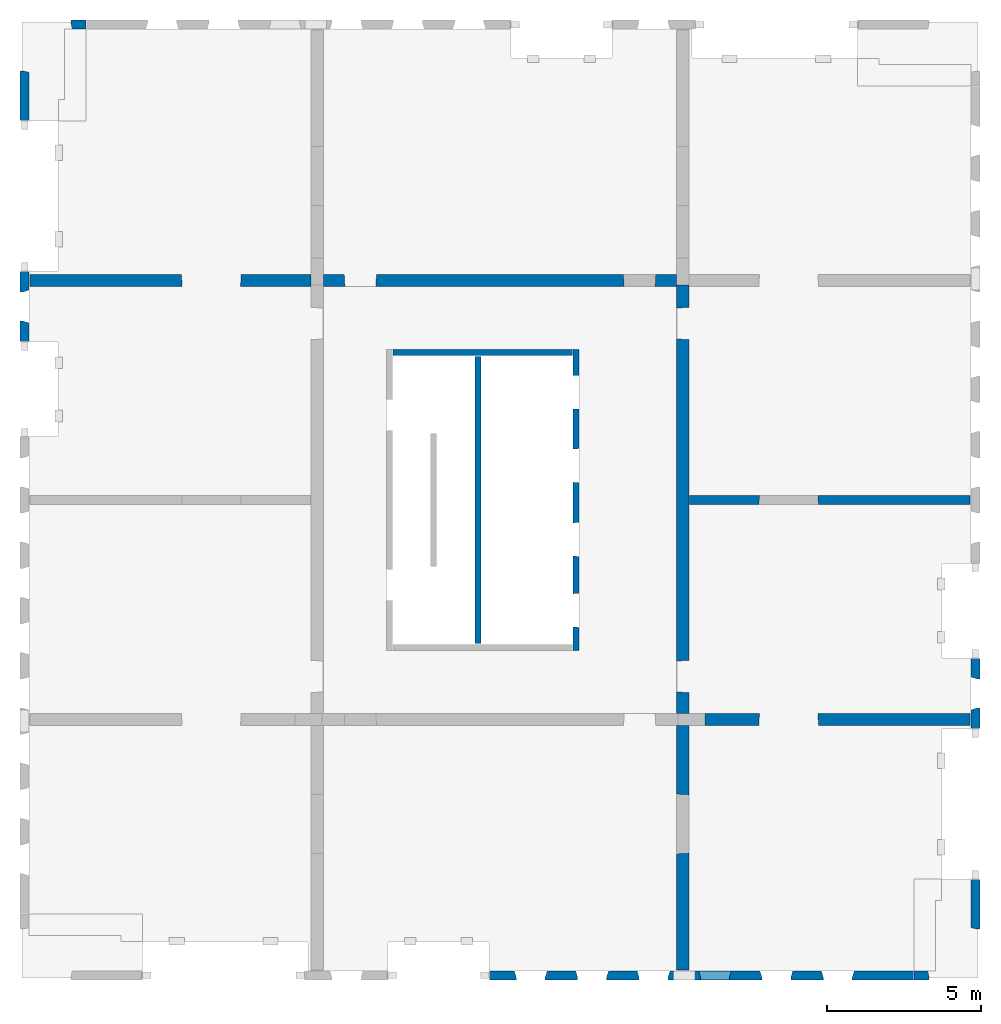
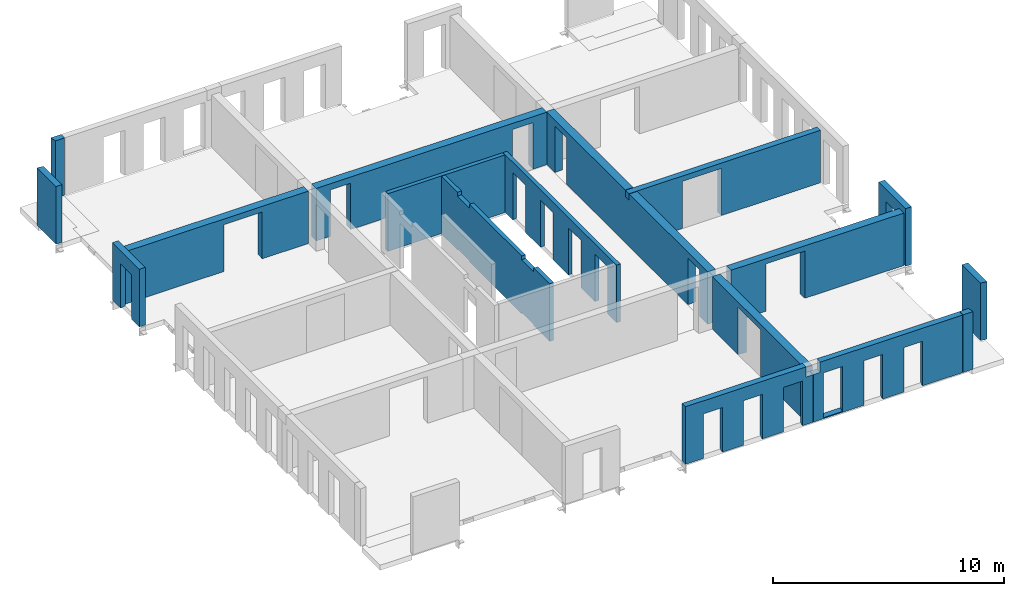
# One storey, part 3 of 4: 17 walls, 36 openings.
"""IFC2X3 building model written with IfcOpenShell, lengths in millimetres."""

from ifc_helpers import new_model, entity, si_unit, converted_unit, derived_unit, direction, frame, frame_2d, origin, origin_2d_with_axis, place, context, subcontext, project, spatial, rectangle, extrude, faceted_brep, material, layer, layer_set, layer_usage, type_object, element, save


model = new_model("IFC2X3")

# Units and contexts
model_context = context("Model", 3, precision=0.01, world=origin(), true_north=direction((6.12303176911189e-17, 1.0)))
body_context = subcontext(model_context, "Body", "Model", "MODEL_VIEW")
ifc_project = project(units=[si_unit("LENGTHUNIT", "METRE", prefix="MILLI"), si_unit("AREAUNIT", "SQUARE_METRE"), si_unit("VOLUMEUNIT", "CUBIC_METRE"), converted_unit("PLANEANGLEUNIT", "DEGREE", entity("IfcRatioMeasure", 0.0174532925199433), si_unit("PLANEANGLEUNIT", "RADIAN"), dimensions=[0, 0, 0, 0, 0, 0, 0]), si_unit("MASSUNIT", "GRAM", prefix="KILO"), derived_unit("MASSDENSITYUNIT", [(si_unit("MASSUNIT", "GRAM", prefix="KILO"), 1), (si_unit("LENGTHUNIT", "METRE"), -3)]), si_unit("TIMEUNIT", "SECOND"), si_unit("FREQUENCYUNIT", "HERTZ"), si_unit("THERMODYNAMICTEMPERATUREUNIT", "DEGREE_CELSIUS"), derived_unit("THERMALTRANSMITTANCEUNIT", [(si_unit("MASSUNIT", "GRAM", prefix="KILO"), 1), (si_unit("THERMODYNAMICTEMPERATUREUNIT", "KELVIN"), -1), (si_unit("TIMEUNIT", "SECOND"), -3)]), derived_unit("VOLUMETRICFLOWRATEUNIT", [(si_unit("LENGTHUNIT", "METRE"), 3), (si_unit("TIMEUNIT", "SECOND"), -1)]), si_unit("ELECTRICCURRENTUNIT", "AMPERE"), si_unit("ELECTRICVOLTAGEUNIT", "VOLT"), si_unit("POWERUNIT", "WATT"), si_unit("FORCEUNIT", "NEWTON", prefix="KILO"), si_unit("ILLUMINANCEUNIT", "LUX"), si_unit("LUMINOUSFLUXUNIT", "LUMEN"), si_unit("LUMINOUSINTENSITYUNIT", "CANDELA"), derived_unit("USERDEFINED", [(si_unit("MASSUNIT", "GRAM", prefix="KILO"), -1), (si_unit("LENGTHUNIT", "METRE"), -2), (si_unit("TIMEUNIT", "SECOND"), 3), (si_unit("LUMINOUSFLUXUNIT", "LUMEN"), 1)]), derived_unit("LINEARVELOCITYUNIT", [(si_unit("LENGTHUNIT", "METRE"), 1), (si_unit("TIMEUNIT", "SECOND"), -1)]), si_unit("PRESSUREUNIT", "PASCAL"), derived_unit("USERDEFINED", [(si_unit("LENGTHUNIT", "METRE"), -2), (si_unit("MASSUNIT", "GRAM", prefix="KILO"), 1), (si_unit("TIMEUNIT", "SECOND"), -2)])], contexts=[model_context])

# Site, building, storey
site_placement = place(None, origin())
site = spatial("IfcSite", under=ifc_project, at=site_placement, Name="Default", CompositionType="ELEMENT")
building_placement = place(site_placement, origin())
building = spatial("IfcBuilding", under=site, at=building_placement, Name="niet gebruiken", CompositionType="ELEMENT")
storey_placement = place(building_placement, frame((0.0, 0.0, 66960.0)))
storey = spatial("IfcBuildingStorey", under=building, at=storey_placement, Name="21 eenentwintigste verdieping", CompositionType="ELEMENT", Elevation=66960.0000000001)

# Wall, openings
ifc_material = material(Name="NLRS_f2_beton prefab")
ifc_layer_1 = layer(ifc_material, 200.0)
ifc_layer_set_1 = layer_set([ifc_layer_1], Name="Basic Wall:NLRS_22.21_WA_beton prefab d=200_gen")
ifc_layer_usage_1 = layer_usage(ifc_layer_set_1, "AXIS2", "NEGATIVE", 100.0)
wall_type_1 = type_object("IfcWallType", Name="Basic Wall:NLRS_22.21_WA_beton prefab d=200_gen", PredefinedType="STANDARD", material=ifc_layer_set_1)
wall_1_placement = place(storey_placement, frame((144230.0, 22400.0, -50.0), z_axis=(0.0, 0.0, 1.0), x_axis=(0.0, -1.0, 0.0)))
wall_1 = element("IfcWallStandardCase", 1, at=wall_1_placement, inside=storey, type_object=wall_type_1, material=ifc_layer_usage_1, Name="Basic Wall:NLRS_22.21_WA_beton prefab d=200_gen", ObjectType="Basic Wall:NLRS_22.21_WA_beton prefab d=200_gen", context=body_context, shape_type="SweptSolid", body=[
    extrude(rectangle(XDim=9800.0, YDim=199.999999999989, at=frame_2d((4900.0, -3.69482222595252e-13), x_axis=(-1.0, 0.0))), origin(), (0.0, 0.0, 1.0), 3040.0),
])
opening_1_placement = place(wall_1_placement, frame((9047.0, -100.0, 0.0)))
element("IfcOpeningElement", 2, at=opening_1_placement, cuts=wall_1, Name="Basic Wall:NLRS_22.21_WA_beton prefab d=200_gen", ObjectType="Opening", context=body_context, shape_type="Brep", body=[
    faceted_brep([(-1104.0, 200.0, 2502.0), (-1104.0, 200.0, 0.0), (-1092.0, 0.0, 0.0), (-1092.0, 0.0, 2490.0), (0.0, 200.0, 0.0), (-12.0, 0.0, 0.0), (-12.0, 0.0, 2490.0), (0.0, 200.0, 2502.0)], [[[0, 1, 2, 3]], [[1, 4, 5, 2]], [[6, 3, 2, 5]], [[7, 4, 1, 0]], [[7, 0, 3, 6]], [[4, 7, 6, 5]]]),
])
opening_2_placement = place(wall_1_placement, frame((6737.0, -100.0, 0.0)))
element("IfcOpeningElement", 3, at=opening_2_placement, cuts=wall_1, Name="Basic Wall:NLRS_22.21_WA_beton prefab d=200_gen", ObjectType="Opening", context=body_context, shape_type="Brep", body=[
    faceted_brep([(-1104.0, 200.0, 2502.0), (-1104.0, 200.0, 0.0), (-1092.0, 0.0, 0.0), (-1092.0, 0.0, 2490.0), (0.0, 200.0, 0.0), (-12.0, 0.0, 0.0), (-12.0, 0.0, 2490.0), (0.0, 200.0, 2502.0)], [[[0, 1, 2, 3]], [[1, 4, 5, 2]], [[6, 3, 2, 5]], [[7, 4, 1, 0]], [[7, 0, 3, 6]], [[4, 7, 6, 5]]]),
])
opening_3_placement = place(wall_1_placement, frame((4332.0, -100.0, 0.0)))
element("IfcOpeningElement", 4, at=opening_3_placement, cuts=wall_1, Name="Basic Wall:NLRS_22.21_WA_beton prefab d=200_gen", ObjectType="Opening", context=body_context, shape_type="Brep", body=[
    faceted_brep([(-1104.0, 200.0, 2502.0), (-1104.0, 200.0, 0.0), (-1092.0, 0.0, 0.0), (-1092.0, 0.0, 2490.0), (0.0, 200.0, 0.0), (-12.0, 0.0, 0.0), (-12.0, 0.0, 2490.0), (0.0, 200.0, 2502.0)], [[[0, 1, 2, 3]], [[1, 4, 5, 2]], [[6, 3, 2, 5]], [[7, 4, 1, 0]], [[7, 0, 3, 6]], [[4, 7, 6, 5]]]),
])
opening_4_placement = place(wall_1_placement, frame((1942.0, -100.0, 0.0)))
element("IfcOpeningElement", 5, at=opening_4_placement, cuts=wall_1, Name="Basic Wall:NLRS_22.21_WA_beton prefab d=200_gen", ObjectType="Opening", context=body_context, shape_type="Brep", body=[
    faceted_brep([(-1104.0, 200.0, 2502.0), (-1104.0, 200.0, 0.0), (-1092.0, 0.0, 0.0), (-1092.0, 0.0, 2490.0), (0.0, 200.0, 0.0), (-12.0, 0.0, 0.0), (-12.0, 0.0, 2490.0), (0.0, 200.0, 2502.0)], [[[0, 1, 2, 3]], [[1, 4, 5, 2]], [[6, 3, 2, 5]], [[7, 4, 1, 0]], [[7, 0, 3, 6]], [[4, 7, 6, 5]]]),
])

ifc_layer_usage_2 = layer_usage(ifc_layer_set_1, "AXIS2", "NEGATIVE", 100.0)
wall_2_placement = place(storey_placement, frame((141030.0, 22180.0, -50.0), z_axis=(0.0, 0.0, 1.0), x_axis=(0.0, -1.0, 0.0)))
wall_2 = element("IfcWallStandardCase", 6, at=wall_2_placement, inside=storey, type_object=wall_type_1, material=ifc_layer_usage_2, Name="Basic Wall:NLRS_22.21_WA_beton prefab d=200_gen", ObjectType="Basic Wall:NLRS_22.21_WA_beton prefab d=200_gen", context=body_context, shape_type="SweptSolid", body=[
    extrude(rectangle(XDim=9360.0, YDim=199.999999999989, at=frame_2d((4680.0, -2.8421709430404e-14), x_axis=(-1.0, 0.0))), origin(), (0.0, 0.0, 1.0), 3040.0),
])
opening_5_placement = place(wall_2_placement, origin())
element("IfcOpeningElement", 7, at=opening_5_placement, cuts=wall_2, Name="Basic Wall:NLRS_22.21_WA_beton prefab d=200_gen", ObjectType="Opening", context=body_context, shape_type="SweptSolid", body=[
    extrude(rectangle(XDim=70.0000000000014, YDim=1044.00000000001, at=origin_2d_with_axis()), frame((7452.0, -100.0, 35.0), z_axis=(0.0, 1.0, 0.0), x_axis=(0.0, 0.0, -1.0)), (0.0, 0.0, 1.0), 199.999999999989),
])
opening_6_placement = place(wall_2_placement, origin())
element("IfcOpeningElement", 8, at=opening_6_placement, cuts=wall_2, Name="Basic Wall:NLRS_22.21_WA_beton prefab d=200_gen", ObjectType="Opening", context=body_context, shape_type="SweptSolid", body=[
    extrude(rectangle(XDim=70.0000000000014, YDim=1044.00000000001, at=origin_2d_with_axis()), frame((1908.0, -100.0, 35.0), z_axis=(0.0, 1.0, 0.0), x_axis=(0.0, 0.0, -1.0)), (0.0, 0.0, 1.0), 199.999999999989),
])
opening_7_placement = place(wall_2_placement, origin())
element("IfcOpeningElement", 9, at=opening_7_placement, cuts=wall_2, Name="Basic Wall:NLRS_22.21_WA_beton prefab d=200_gen", ObjectType="Opening", context=body_context, shape_type="SweptSolid", body=[
    extrude(rectangle(XDim=199.999999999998, YDim=1044.00000000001, at=frame_2d((-4.33431068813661e-12, 0.0), x_axis=(1.0, 0.0))), frame((1908.0, -100.0, 2940.0), z_axis=(0.0, 1.0, 0.0), x_axis=(0.0, 0.0, -1.0)), (0.0, 0.0, 1.0), 199.999999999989),
])
opening_8_placement = place(wall_2_placement, origin())
element("IfcOpeningElement", 10, at=opening_8_placement, cuts=wall_2, Name="Basic Wall:NLRS_22.21_WA_beton prefab d=200_gen", ObjectType="Opening", context=body_context, shape_type="SweptSolid", body=[
    extrude(rectangle(XDim=199.999999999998, YDim=1044.00000000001, at=frame_2d((-4.33431068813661e-12, 0.0), x_axis=(1.0, 0.0))), frame((7452.0, -100.0, 2940.0), z_axis=(0.0, 1.0, 0.0), x_axis=(0.0, 0.0, -1.0)), (0.0, 0.0, 1.0), 199.999999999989),
])
opening_9_placement = place(wall_2_placement, origin())
element("IfcOpeningElement", 11, at=opening_9_placement, cuts=wall_2, Name="Basic Wall:NLRS_22.21_WA_beton prefab d=200_gen", ObjectType="Recess", context=body_context, shape_type="SweptSolid", body=[
    extrude(rectangle(XDim=399.999999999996, YDim=280.000000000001, at=frame_2d((-2.1600499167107e-12, 0.0), x_axis=(0.0, 1.0))), frame((770.0, -60.0, 438.0), z_axis=(0.0, 1.0, 0.0), x_axis=(1.0, 0.0, 0.0)), (0.0, 0.0, 1.0), 159.999999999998),
])
opening_10_placement = place(wall_2_placement, origin())
element("IfcOpeningElement", 12, at=opening_10_placement, cuts=wall_2, Name="Basic Wall:NLRS_22.21_WA_beton prefab d=200_gen", ObjectType="Recess", context=body_context, shape_type="SweptSolid", body=[
    extrude(rectangle(XDim=399.999999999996, YDim=280.000000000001, at=frame_2d((-2.1600499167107e-12, 0.0), x_axis=(0.0, 1.0))), frame((1570.0, -60.0, 438.0), z_axis=(0.0, 1.0, 0.0), x_axis=(1.0, 0.0, 0.0)), (0.0, 0.0, 1.0), 159.999999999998),
])
opening_11_placement = place(wall_2_placement, origin())
element("IfcOpeningElement", 13, at=opening_11_placement, cuts=wall_2, Name="Basic Wall:NLRS_22.21_WA_beton prefab d=200_gen", ObjectType="Recess", context=body_context, shape_type="SweptSolid", body=[
    extrude(rectangle(XDim=399.999999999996, YDim=279.999999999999, at=frame_2d((-1.08002495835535e-12, 0.0), x_axis=(0.0, 1.0))), frame((3160.0, -60.0, 438.0), z_axis=(0.0, 1.0, 0.0), x_axis=(1.0, 0.0, 0.0)), (0.0, 0.0, 1.0), 159.999999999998),
])
opening_12_placement = place(wall_2_placement, origin())
element("IfcOpeningElement", 14, at=opening_12_placement, cuts=wall_2, Name="Basic Wall:NLRS_22.21_WA_beton prefab d=200_gen", ObjectType="Recess", context=body_context, shape_type="SweptSolid", body=[
    extrude(rectangle(XDim=399.999999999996, YDim=279.999999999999, at=frame_2d((1.08002495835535e-12, 0.0), x_axis=(0.0, 1.0))), frame((3960.0, -60.0, 438.0), z_axis=(0.0, 1.0, 0.0), x_axis=(1.0, 0.0, 0.0)), (0.0, 0.0, 1.0), 159.999999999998),
])

# Wall
ifc_layer_usage_3 = layer_usage(ifc_layer_set_1, "AXIS2", "NEGATIVE", 100.0)
wall_3_placement = place(storey_placement, frame((138270.0, 22300.0, -50.0)))
element("IfcWallStandardCase", 15, at=wall_3_placement, inside=storey, type_object=wall_type_1, material=ifc_layer_usage_3, Name="Basic Wall:NLRS_22.21_WA_beton prefab d=200_gen", ObjectType="Basic Wall:NLRS_22.21_WA_beton prefab d=200_gen", context=body_context, shape_type="SweptSolid", body=[
    extrude(rectangle(XDim=5839.99999999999, YDim=199.999999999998, at=frame_2d((2919.99999999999, -7.60280727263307e-13), x_axis=(-1.0, 0.0))), origin(), (0.0, 0.0, 1.0), 3040.0),
])

# Wall, openings
ifc_layer_2 = layer(ifc_material, 300.0)
ifc_layer_set_2 = layer_set([ifc_layer_2], Name="Basic Wall:NLRS_22.21_WA_beton prefab d=300_gen")
ifc_layer_usage_4 = layer_usage(ifc_layer_set_2, "AXIS2", "NEGATIVE", 150.0)
wall_type_2 = type_object("IfcWallType", Name="Basic Wall:NLRS_22.21_WA_beton prefab d=300_gen", PredefinedType="STANDARD", material=ifc_layer_set_2)
wall_4_placement = place(storey_placement, frame((157060.0, 17500.0, -70.0), z_axis=(0.0, 0.0, 1.0), x_axis=(-1.0, 0.0, 0.0)))
wall_4 = element("IfcWallStandardCase", 16, at=wall_4_placement, inside=storey, type_object=wall_type_2, material=ifc_layer_usage_4, Name="Basic Wall:NLRS_22.21_WA_beton prefab d=300_gen", ObjectType="Basic Wall:NLRS_22.21_WA_beton prefab d=300_gen", context=body_context, shape_type="SweptSolid", body=[
    extrude(rectangle(XDim=9559.9999999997, YDim=300.000000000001, at=frame_2d((4779.99999999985, -1.84741111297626e-13), x_axis=(-1.0, 0.0))), origin(), (0.0, 0.0, 1.0), 2769.99999999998),
])
opening_13_placement = place(wall_4_placement, frame((6878.0, 150.0, 0.0)))
element("IfcOpeningElement", 17, at=opening_13_placement, cuts=wall_4, Name="Basic Wall:NLRS_22.21_WA_beton prefab d=300_gen", ObjectType="Opening", context=body_context, shape_type="Brep", body=[
    faceted_brep([(-18.0, -300.0, 2470.0), (-1918.0, -300.0, 2470.0), (-1918.0, -300.0, 0.0), (-18.0, -300.0, 0.0), (0.0, 0.0, 2488.0), (0.0, 0.0, 0.0), (-1936.0, 0.0, 0.0), (-1936.0, 0.0, 2488.0)], [[[0, 1, 2, 3]], [[4, 5, 6, 7]], [[4, 7, 1, 0]], [[7, 6, 2, 1]], [[6, 5, 3, 2]], [[5, 4, 0, 3]]]),
])
opening_14_placement = place(wall_4_placement, origin())
element("IfcOpeningElement", 18, at=opening_14_placement, cuts=wall_4, Name="Basic Wall:NLRS_22.21_WA_beton prefab d=300_gen", ObjectType="Opening", context=body_context, shape_type="SweptSolid", body=[
    extrude(rectangle(XDim=2439.99999999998, YDim=420.000000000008, at=frame_2d((0.0, 0.0), x_axis=(0.0, 1.0))), frame((9350.0, 150.0, 1220.0), z_axis=(0.0, -1.0, 0.0), x_axis=(1.0, 0.0, 0.0)), (0.0, 0.0, 1.0), 300.0),
])

# Wall, opening
ifc_layer_3 = layer(ifc_material, 400.0)
ifc_layer_set_3 = layer_set([ifc_layer_3], Name="Basic Wall:NLRS_22.21_WA_beton prefab d=400_gen")
ifc_layer_usage_5 = layer_usage(ifc_layer_set_3, "AXIS2", "NEGATIVE", 200.0)
wall_type_3 = type_object("IfcWallType", Name="Basic Wall:NLRS_22.21_WA_beton prefab d=400_gen", PredefinedType="STANDARD", material=ifc_layer_set_3)
wall_5_placement = place(storey_placement, frame((147700.0, 10150.0, -70.0), z_axis=(0.0, 0.0, 1.0), x_axis=(0.0, -1.0, 0.0)))
wall_5 = element("IfcWallStandardCase", 19, at=wall_5_placement, inside=storey, type_object=wall_type_3, material=ifc_layer_usage_5, Name="Basic Wall:NLRS_22.21_WA_beton prefab d=400_gen", ObjectType="Basic Wall:NLRS_22.21_WA_beton prefab d=400_gen", context=body_context, shape_type="SweptSolid", body=[
    extrude(rectangle(XDim=7960.00000000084, YDim=400.000000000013, at=frame_2d((3980.00000000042, -7.105427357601e-14), x_axis=(-1.0, 0.0))), origin(), (0.0, 0.0, 1.0), 2770.00000000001),
])
opening_15_placement = place(wall_5_placement, frame((4174.0, -200.0, 0.0)))
element("IfcOpeningElement", 20, at=opening_15_placement, cuts=wall_5, Name="Basic Wall:NLRS_22.21_WA_beton prefab d=400_gen", ObjectType="Opening", context=body_context, shape_type="Brep", body=[
    faceted_brep([(-24.0, 400.0, 2470.0), (-24.0, 400.0, 0.0), (-1924.0, 400.0, 0.0), (-1924.0, 400.0, 2470.0), (0.0, 0.0, 2494.0), (-1948.0, 0.0, 2494.0), (-1948.0, 0.0, 0.0), (0.0, 0.0, 0.0)], [[[0, 1, 2, 3]], [[4, 5, 6, 7]], [[4, 0, 3, 5]], [[5, 3, 2, 6]], [[6, 2, 1, 7]], [[7, 1, 0, 4]]]),
])

ifc_layer_usage_6 = layer_usage(ifc_layer_set_3, "AXIS2", "NEGATIVE", 200.0)
wall_6_placement = place(storey_placement, frame((135600.0, 24650.0, -70.0), z_axis=(0.0, 0.0, 1.0), x_axis=(-1.0, 0.0, 0.0)))
wall_6 = element("IfcWallStandardCase", 21, at=wall_6_placement, inside=storey, type_object=wall_type_3, material=ifc_layer_usage_6, Name="Basic Wall:NLRS_22.21_WA_beton prefab d=400_gen", ObjectType="Basic Wall:NLRS_22.21_WA_beton prefab d=400_gen", context=body_context, shape_type="SweptSolid", body=[
    extrude(rectangle(XDim=9159.99999999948, YDim=399.999999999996, at=frame_2d((4579.99999999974, -1.36424205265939e-12), x_axis=(-1.0, 0.0))), origin(), (0.0, 0.0, 1.0), 2770.00000000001),
])
opening_16_placement = place(wall_6_placement, frame((4224.0, 200.0, 0.0)))
element("IfcOpeningElement", 22, at=opening_16_placement, cuts=wall_6, Name="Basic Wall:NLRS_22.21_WA_beton prefab d=400_gen", ObjectType="Opening", context=body_context, shape_type="Brep", body=[
    faceted_brep([(-1924.0, 0.0, 2470.0), (-24.0, 0.0, 2470.0), (-24.0, 0.0, 0.0), (-1924.0, 0.0, 0.0), (-1948.0, -400.0, 2494.0), (-1948.0, -400.0, 0.0), (0.0, -400.0, 0.0), (0.0, -400.0, 2494.0)], [[[0, 1, 2, 3]], [[4, 5, 6, 7]], [[4, 7, 1, 0]], [[7, 6, 2, 1]], [[6, 5, 3, 2]], [[5, 4, 0, 3]]]),
])

ifc_layer_usage_7 = layer_usage(ifc_layer_set_3, "AXIS2", "NEGATIVE", 200.0)
wall_7_placement = place(storey_placement, frame((148430.0, 10350.0, -70.0)))
wall_7 = element("IfcWallStandardCase", 23, at=wall_7_placement, inside=storey, type_object=wall_type_3, material=ifc_layer_usage_7, Name="Basic Wall:NLRS_22.21_WA_beton prefab d=400_gen", ObjectType="Basic Wall:NLRS_22.21_WA_beton prefab d=400_gen", context=body_context, shape_type="SweptSolid", body=[
    extrude(rectangle(XDim=8630.00000000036, YDim=400.0, at=frame_2d((4315.00000000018, 0.0), x_axis=(-1.0, 0.0))), origin(), (0.0, 0.0, 1.0), 2770.00000000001),
])
opening_17_placement = place(wall_7_placement, frame((1746.0, -200.0, 0.0)))
element("IfcOpeningElement", 24, at=opening_17_placement, cuts=wall_7, Name="Basic Wall:NLRS_22.21_WA_beton prefab d=400_gen", ObjectType="Opening", context=body_context, shape_type="Brep", body=[
    faceted_brep([(24.0, 400.0, 2470.0), (1924.0, 400.0, 2470.0), (1924.0, 400.0, 0.0), (24.0, 400.0, 0.0), (0.0, 0.0, 2494.0), (0.0, 0.0, 0.0), (1948.0, 0.0, 0.0), (1948.0, 0.0, 2494.0)], [[[0, 1, 2, 3]], [[4, 5, 6, 7]], [[4, 7, 1, 0]], [[7, 6, 2, 1]], [[6, 5, 3, 2]], [[5, 4, 0, 3]]]),
])

# Wall, openings
ifc_layer_usage_8 = layer_usage(ifc_layer_set_3, "AXIS2", "NEGATIVE", 200.0)
wall_8_placement = place(storey_placement, frame((147700.0, 24500.0, -70.0), z_axis=(0.0, 0.0, 1.0), x_axis=(0.0, -1.0, 0.0)))
wall_8 = element("IfcWallStandardCase", 25, at=wall_8_placement, inside=storey, type_object=wall_type_3, material=ifc_layer_usage_8, Name="Basic Wall:NLRS_22.21_WA_beton prefab d=400_gen", ObjectType="Basic Wall:NLRS_22.21_WA_beton prefab d=400_gen", context=body_context, shape_type="SweptSolid", body=[
    extrude(rectangle(XDim=13949.9999999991, YDim=400.000000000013, at=frame_2d((6974.99999999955, 2.8421709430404e-14), x_axis=(-1.0, 0.0))), origin(), (0.0, 0.0, 1.0), 2770.00000000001),
])
opening_18_placement = place(wall_8_placement, frame((13274.0, -200.0, 0.0)))
element("IfcOpeningElement", 26, at=opening_18_placement, cuts=wall_8, Name="Basic Wall:NLRS_22.21_WA_beton prefab d=400_gen", ObjectType="Opening", context=body_context, shape_type="Brep", body=[
    faceted_brep([(-1054.0, 400.0, 2472.0), (-1054.0, 400.0, 0.0), (-1030.0, 0.0, 0.0), (-1030.0, 0.0, 2448.0), (0.0, 400.0, 0.0), (-24.0, 0.0, 0.0), (-24.0, 0.0, 2448.0), (0.0, 400.0, 2472.0)], [[[0, 1, 2, 3]], [[1, 4, 5, 2]], [[6, 3, 2, 5]], [[7, 4, 1, 0]], [[7, 0, 3, 6]], [[4, 7, 6, 5]]]),
])
opening_19_placement = place(wall_8_placement, frame((1780.0, -200.0, 0.0)))
element("IfcOpeningElement", 27, at=opening_19_placement, cuts=wall_8, Name="Basic Wall:NLRS_22.21_WA_beton prefab d=400_gen", ObjectType="Opening", context=body_context, shape_type="Brep", body=[
    faceted_brep([(-1054.0, 400.0, 2472.0), (-1054.0, 400.0, 0.0), (-1030.0, 0.0, 0.0), (-1030.0, 0.0, 2448.0), (0.0, 400.0, 0.0), (-24.0, 0.0, 0.0), (-24.0, 0.0, 2448.0), (0.0, 400.0, 2472.0)], [[[0, 1, 2, 3]], [[1, 4, 5, 2]], [[6, 3, 2, 5]], [[7, 4, 1, 0]], [[7, 0, 3, 6]], [[4, 7, 6, 5]]]),
])
opening_20_placement = place(wall_8_placement, origin())
element("IfcOpeningElement", 28, at=opening_20_placement, cuts=wall_8, Name="Basic Wall:NLRS_22.21_WA_beton prefab d=400_gen", ObjectType="Opening", context=body_context, shape_type="SweptSolid", body=[
    extrude(rectangle(XDim=350.000000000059, YDim=339.999999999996, at=frame_2d((0.0, 0.0), x_axis=(0.0, 1.0))), frame((7000.0, 200.0, 2595.0), z_axis=(0.0, -1.0, 0.0), x_axis=(-1.0, 0.0, 0.0)), (0.0, 0.0, 1.0), 400.0),
])

ifc_layer_usage_9 = layer_usage(ifc_layer_set_3, "AXIS2", "NEGATIVE", 200.0)
wall_9_placement = place(storey_placement, frame((136000.0, 24650.0, -70.0)))
wall_9 = element("IfcWallStandardCase", 29, at=wall_9_placement, inside=storey, type_object=wall_type_3, material=ifc_layer_usage_9, Name="Basic Wall:NLRS_22.21_WA_beton prefab d=400_gen", ObjectType="Basic Wall:NLRS_22.21_WA_beton prefab d=400_gen", context=body_context, shape_type="SweptSolid", body=[
    extrude(rectangle(XDim=11500.0, YDim=400.000000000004, at=frame_2d((5750.0, -1.09423581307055e-12), x_axis=(-1.0, 0.0))), origin(), (0.0, 0.0, 1.0), 2770.00000000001),
])
opening_21_placement = place(wall_9_placement, frame((676.0, -200.0, 0.0)))
element("IfcOpeningElement", 30, at=opening_21_placement, cuts=wall_9, Name="Basic Wall:NLRS_22.21_WA_beton prefab d=400_gen", ObjectType="Opening", context=body_context, shape_type="Brep", body=[
    faceted_brep([(0.0, 400.0, 2472.0), (0.0, 400.0, 0.0), (24.0, 0.0, 0.0), (24.0, 0.0, 2448.0), (1054.0, 400.0, 0.0), (1030.0, 0.0, 0.0), (1030.0, 0.0, 2448.0), (1054.0, 400.0, 2472.0)], [[[0, 1, 2, 3]], [[1, 4, 5, 2]], [[6, 3, 2, 5]], [[7, 4, 1, 0]], [[7, 0, 3, 6]], [[4, 7, 6, 5]]]),
])
opening_22_placement = place(wall_9_placement, frame((9770.0, -200.0, 0.0)))
element("IfcOpeningElement", 31, at=opening_22_placement, cuts=wall_9, Name="Basic Wall:NLRS_22.21_WA_beton prefab d=400_gen", ObjectType="Opening", context=body_context, shape_type="Brep", body=[
    faceted_brep([(0.0, 400.0, 2472.0), (0.0, 400.0, 0.0), (24.0, 0.0, 0.0), (24.0, 0.0, 2448.0), (1054.0, 400.0, 0.0), (1030.0, 0.0, 0.0), (1030.0, 0.0, 2448.0), (1054.0, 400.0, 2472.0)], [[[0, 1, 2, 3]], [[1, 4, 5, 2]], [[6, 3, 2, 5]], [[7, 4, 1, 0]], [[7, 0, 3, 6]], [[4, 7, 6, 5]]]),
])

# Wall, opening
ifc_layer_4 = layer(ifc_material, 300.0)
ifc_layer_set_4 = layer_set([ifc_layer_4], Name="Basic Wall:NLRS_21.21_WA_beton prefab d=300/320_gen")
ifc_layer_usage_10 = layer_usage(ifc_layer_set_4, "AXIS2", "NEGATIVE", 150.0)
wall_type_4 = type_object("IfcWallType", Name="Basic Wall:NLRS_21.21_WA_beton prefab d=300/320_gen", PredefinedType="STANDARD", material=ifc_layer_set_4)
wall_10_placement = place(storey_placement, frame((157230.0, 12360.0, -50.0), z_axis=(0.0, 0.0, 1.0), x_axis=(0.0, -1.0, 0.0)))
wall_10 = element("IfcWallStandardCase", 32, at=wall_10_placement, inside=storey, type_object=wall_type_4, material=ifc_layer_usage_10, Name="Basic Wall:NLRS_21.21_WA_beton prefab d=300/320_gen", ObjectType="Basic Wall:NLRS_21.21_WA_beton prefab d=300/320_gen", context=body_context, shape_type="SweptSolid", body=[
    extrude(rectangle(XDim=2320.00000000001, YDim=300.000000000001, at=frame_2d((1160.0, -8.38440428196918e-12), x_axis=(-1.0, 0.0))), origin(), (0.0, 0.0, 1.0), 3040.0),
])
opening_23_placement = place(wall_10_placement, frame((1695.0, -150.0, -20.0)))
element("IfcOpeningElement", 33, at=opening_23_placement, cuts=wall_10, Name="Basic Wall:NLRS_21.21_WA_beton prefab d=300/320_gen", ObjectType="Opening", context=body_context, shape_type="Brep", body=[
    faceted_brep([(-1070.0, 0.0, 2405.0), (-1070.0, 0.0, 0.0), (0.0, 0.0, 0.0), (0.0, 0.0, 2405.0), (-65.0, 219.0, 2370.0), (-1005.0, 219.0, 2370.0), (-65.0, 219.0, 0.0), (-1005.0, 219.0, 0.0), (-1005.0, 300.0, 0.0), (-65.0, 300.0, 0.0), (-1005.0, 300.0, 2370.0), (-65.0, 300.0, 2370.0)], [[[0, 1, 2, 3]], [[3, 4, 5, 0]], [[2, 6, 4, 3]], [[1, 7, 8, 9, 6, 2]], [[0, 5, 7, 1]], [[10, 11, 9, 8]], [[10, 5, 4, 11]], [[11, 4, 6, 9]], [[8, 7, 5, 10]]]),
])

ifc_layer_usage_11 = layer_usage(ifc_layer_set_4, "AXIS2", "NEGATIVE", 150.0)
wall_11_placement = place(storey_placement, frame((126270.0, 22640.0, -50.0), z_axis=(0.0, 0.0, 1.0), x_axis=(0.0, 1.0, 0.0)))
wall_11 = element("IfcWallStandardCase", 34, at=wall_11_placement, inside=storey, type_object=wall_type_4, material=ifc_layer_usage_11, Name="Basic Wall:NLRS_21.21_WA_beton prefab d=300/320_gen", ObjectType="Basic Wall:NLRS_21.21_WA_beton prefab d=300/320_gen", context=body_context, shape_type="SweptSolid", body=[
    extrude(rectangle(XDim=2320.0, YDim=300.000000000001, at=frame_2d((1160.0, -3.60955709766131e-12), x_axis=(-1.0, 0.0))), origin(), (0.0, 0.0, 1.0), 3040.0),
])
opening_24_placement = place(wall_11_placement, frame((625.0, 150.0, -20.0)))
element("IfcOpeningElement", 35, at=opening_24_placement, cuts=wall_11, Name="Basic Wall:NLRS_21.21_WA_beton prefab d=300/320_gen", ObjectType="Opening", context=body_context, shape_type="Brep", body=[
    faceted_brep([(0.0, -300.0, 2405.0), (0.0, -300.0, 0.0), (1070.0, -300.0, 0.0), (1070.0, -300.0, 2405.0), (1005.0, -81.0, 2370.0), (65.0, -81.0, 2370.0), (1005.0, -81.0, 0.0), (65.0, -81.0, 0.0), (65.0, 0.0, 0.0), (1005.0, 0.0, 0.0), (65.0, 0.0, 2370.0), (1005.0, 0.0, 2370.0)], [[[0, 1, 2, 3]], [[3, 4, 5, 0]], [[2, 6, 4, 3]], [[1, 7, 8, 9, 6, 2]], [[0, 5, 7, 1]], [[10, 11, 9, 8]], [[10, 5, 4, 11]], [[11, 4, 6, 9]], [[8, 7, 5, 10]]]),
])

# Wall, openings
ifc_layer_usage_12 = layer_usage(ifc_layer_set_4, "AXIS2", "NEGATIVE", 150.0)
wall_12_placement = place(storey_placement, frame((155210.0, 2020.0, -50.0), z_axis=(0.0, 0.0, 1.0), x_axis=(-1.0, 0.0, 0.0)))
wall_12 = element("IfcWallStandardCase", 36, at=wall_12_placement, inside=storey, type_object=wall_type_4, material=ifc_layer_usage_12, Name="Basic Wall:NLRS_21.21_WA_beton prefab d=300/320_gen", ObjectType="Basic Wall:NLRS_21.21_WA_beton prefab d=300/320_gen", context=body_context, shape_type="SweptSolid", body=[
    extrude(rectangle(XDim=7449.99999999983, YDim=300.0, at=frame_2d((3724.99999999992, 5.6843418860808e-14), x_axis=(-1.0, 0.0))), origin(), (0.0, 0.0, 1.0), 3040.0),
])
opening_25_placement = place(wall_12_placement, frame((4995.0, 150.0, -20.0)))
element("IfcOpeningElement", 37, at=opening_25_placement, cuts=wall_12, Name="Basic Wall:NLRS_21.21_WA_beton prefab d=300/320_gen", ObjectType="Opening", context=body_context, shape_type="Brep", body=[
    faceted_brep([(0.0, -300.0, 2405.0), (-1070.0, -300.0, 2405.0), (-1070.0, -300.0, 0.0), (0.0, -300.0, 0.0), (-65.0, -81.0, 2370.0), (-1005.0, -81.0, 2370.0), (-1005.0, -81.0, 0.0), (-1005.0, 0.0, 0.0), (-65.0, 0.0, 0.0), (-65.0, -81.0, 0.0), (-65.0, 0.0, 2370.0), (-1005.0, 0.0, 2370.0)], [[[0, 1, 2, 3]], [[1, 0, 4, 5]], [[2, 1, 5, 6]], [[3, 2, 6, 7, 8, 9]], [[0, 3, 9, 4]], [[10, 8, 7, 11]], [[10, 11, 5, 4]], [[11, 7, 6, 5]], [[8, 10, 4, 9]]]),
])
opening_26_placement = place(wall_12_placement, frame((2995.0, 150.0, -20.0)))
element("IfcOpeningElement", 38, at=opening_26_placement, cuts=wall_12, Name="Basic Wall:NLRS_21.21_WA_beton prefab d=300/320_gen", ObjectType="Opening", context=body_context, shape_type="Brep", body=[
    faceted_brep([(0.0, -300.0, 2405.0), (-1070.0, -300.0, 2405.0), (-1070.0, -300.0, 0.0), (0.0, -300.0, 0.0), (-65.0, -81.0, 2370.0), (-1005.0, -81.0, 2370.0), (-1005.0, -81.0, 0.0), (-1005.0, 0.0, 0.0), (-65.0, 0.0, 0.0), (-65.0, -81.0, 0.0), (-65.0, 0.0, 2370.0), (-1005.0, 0.0, 2370.0)], [[[0, 1, 2, 3]], [[1, 0, 4, 5]], [[2, 1, 5, 6]], [[3, 2, 6, 7, 8, 9]], [[0, 3, 9, 4]], [[10, 8, 7, 11]], [[10, 11, 5, 4]], [[11, 7, 6, 5]], [[8, 10, 4, 9]]]),
])
opening_27_placement = place(wall_12_placement, frame((6995.0, 150.0, 50.0)))
element("IfcOpeningElement", 39, at=opening_27_placement, cuts=wall_12, Name="Basic Wall:NLRS_21.21_WA_beton prefab d=300/320_gen", ObjectType="Opening", context=body_context, shape_type="Brep", body=[
    faceted_brep([(0.0, -300.0, 2405.0), (-1070.0, -300.0, 2405.0), (-1070.0, -300.0, 0.0), (0.0, -300.0, 0.0), (-65.0, -81.0, 2370.0), (-1005.0, -81.0, 2370.0), (-1005.0, -81.0, 0.0), (-1005.0, 0.0, 0.0), (-65.0, 0.0, 0.0), (-65.0, -81.0, 0.0), (-65.0, 0.0, 2370.0), (-1005.0, 0.0, 2370.0)], [[[0, 1, 2, 3]], [[1, 0, 4, 5]], [[2, 1, 5, 6]], [[3, 2, 6, 7, 8, 9]], [[0, 3, 9, 4]], [[10, 8, 7, 11]], [[10, 11, 5, 4]], [[11, 7, 6, 5]], [[8, 10, 4, 9]]]),
])
opening_28_placement = place(wall_12_placement, origin())
element("IfcOpeningElement", 40, at=opening_28_placement, cuts=wall_12, Name="Basic Wall:NLRS_21.21_WA_beton prefab d=300/320_gen", ObjectType="Opening", context=body_context, shape_type="SweptSolid", body=[
    extrude(rectangle(XDim=535.0, YDim=344.999999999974, at=origin_2d_with_axis()), frame((7277.49999999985, 150.0, 2772.5), z_axis=(0.0, -1.0, 0.0), x_axis=(0.0, 0.0, 1.0)), (0.0, 0.0, 1.0), 300.0),
])

# Wall, opening
ifc_layer_usage_13 = layer_usage(ifc_layer_set_4, "AXIS2", "NEGATIVE", 150.0)
wall_13_placement = place(storey_placement, frame((127780.0, 32980.0, -50.0)))
wall_13 = element("IfcWallStandardCase", 41, at=wall_13_placement, inside=storey, type_object=wall_type_4, material=ifc_layer_usage_13, Name="Basic Wall:NLRS_21.21_WA_beton prefab d=300/320_gen", ObjectType="Basic Wall:NLRS_21.21_WA_beton prefab d=300/320_gen", context=body_context, shape_type="SweptSolid", body=[
    extrude(rectangle(XDim=489.999999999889, YDim=300.000000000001, at=frame_2d((244.999999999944, -6.67910171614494e-13), x_axis=(-1.0, 0.0))), origin(), (0.0, 0.0, 1.0), 3040.0),
])
opening_29_placement = place(wall_13_placement, frame((0.0, -250.0, 0.0)))
element("IfcOpeningElement", 42, at=opening_29_placement, cuts=wall_13, Name="Basic Wall:NLRS_21.21_WA_beton prefab d=300/320_gen", ObjectType="Opening", context=body_context, shape_type="Brep", body=[
    faceted_brep([(0.0, 0.0, 3040.0), (65.0, 0.0, 3040.0), (0.0, 319.0, 3040.0), (0.0, 0.0, 0.0), (0.0, 319.0, 0.0), (65.0, 0.0, 0.0)], [[[0, 1, 2]], [[3, 4, 5]], [[1, 0, 3, 5]], [[0, 2, 4, 3]], [[2, 1, 5, 4]]]),
])

ifc_layer_usage_14 = layer_usage(ifc_layer_set_4, "AXIS2", "NEGATIVE", 150.0)
wall_14_placement = place(storey_placement, frame((126270.0, 29840.0, -50.0), z_axis=(0.0, 0.0, 1.0), x_axis=(0.0, 1.0, 0.0)))
wall_14 = element("IfcWallStandardCase", 43, at=wall_14_placement, inside=storey, type_object=wall_type_4, material=ifc_layer_usage_14, Name="Basic Wall:NLRS_21.21_WA_beton prefab d=300/320_gen", ObjectType="Basic Wall:NLRS_21.21_WA_beton prefab d=300/320_gen", context=body_context, shape_type="SweptSolid", body=[
    extrude(rectangle(XDim=1629.99999999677, YDim=300.000000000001, at=frame_2d((814.999999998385, 8.95283847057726e-13), x_axis=(-1.0, 0.0))), origin(), (0.0, 0.0, 1.0), 3040.0),
])
opening_30_placement = place(wall_14_placement, frame((1565.0, 69.0, 0.0)))
element("IfcOpeningElement", 44, at=opening_30_placement, cuts=wall_14, Name="Basic Wall:NLRS_21.21_WA_beton prefab d=300/320_gen", ObjectType="Opening", context=body_context, shape_type="Brep", body=[
    faceted_brep([(65.0, -319.0, 3040.0), (65.0, 0.0, 3040.0), (0.0, -319.0, 3040.0), (65.0, -319.0, 0.0), (0.0, -319.0, 0.0), (65.0, 0.0, 0.0)], [[[0, 1, 2]], [[3, 4, 5]], [[2, 4, 3, 0]], [[0, 3, 5, 1]], [[1, 5, 4, 2]]]),
])

ifc_layer_usage_15 = layer_usage(ifc_layer_set_4, "AXIS2", "NEGATIVE", 150.0)
wall_15_placement = place(storey_placement, frame((155720.0, 2020.0, -50.0), z_axis=(0.0, 0.0, 1.0), x_axis=(-1.0, 0.0, 0.0)))
wall_15 = element("IfcWallStandardCase", 45, at=wall_15_placement, inside=storey, type_object=wall_type_4, material=ifc_layer_usage_15, Name="Basic Wall:NLRS_21.21_WA_beton prefab d=300/320_gen", ObjectType="Basic Wall:NLRS_21.21_WA_beton prefab d=300/320_gen", context=body_context, shape_type="SweptSolid", body=[
    extrude(rectangle(XDim=489.999999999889, YDim=300.0, at=frame_2d((244.999999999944, 4.2632564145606e-14), x_axis=(-1.0, 0.0))), origin(), (0.0, 0.0, 1.0), 3040.0),
])
opening_31_placement = place(wall_15_placement, frame((65.0, 69.0, 0.0)))
element("IfcOpeningElement", 46, at=opening_31_placement, cuts=wall_15, Name="Basic Wall:NLRS_21.21_WA_beton prefab d=300/320_gen", ObjectType="Opening", context=body_context, shape_type="Brep", body=[
    faceted_brep([(-65.0, -319.0, 3040.0), (0.0, -319.0, 3040.0), (-65.0, 0.0, 3040.0), (-65.0, -319.0, 0.0), (-65.0, 0.0, 0.0), (0.0, -319.0, 0.0)], [[[0, 1, 2]], [[3, 4, 5]], [[1, 0, 3, 5]], [[0, 2, 4, 3]], [[2, 1, 5, 4]]]),
])

ifc_layer_usage_16 = layer_usage(ifc_layer_set_4, "AXIS2", "NEGATIVE", 150.0)
wall_16_placement = place(storey_placement, frame((157230.0, 5160.0, -50.0), z_axis=(0.0, 0.0, 1.0), x_axis=(0.0, -1.0, 0.0)))
wall_16 = element("IfcWallStandardCase", 47, at=wall_16_placement, inside=storey, type_object=wall_type_4, material=ifc_layer_usage_16, Name="Basic Wall:NLRS_21.21_WA_beton prefab d=300/320_gen", ObjectType="Basic Wall:NLRS_21.21_WA_beton prefab d=300/320_gen", context=body_context, shape_type="SweptSolid", body=[
    extrude(rectangle(XDim=1629.99999999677, YDim=300.000000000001, at=frame_2d((814.999999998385, 4.76063632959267e-12), x_axis=(-1.0, 0.0))), origin(), (0.0, 0.0, 1.0), 3040.0),
])
opening_32_placement = place(wall_16_placement, frame((1630.0, -250.0, 0.0)))
element("IfcOpeningElement", 48, at=opening_32_placement, cuts=wall_16, Name="Basic Wall:NLRS_21.21_WA_beton prefab d=300/320_gen", ObjectType="Opening", context=body_context, shape_type="Brep", body=[
    faceted_brep([(0.0, 0.0, 3040.0), (0.0, 319.0, 3040.0), (-65.0, 0.0, 3040.0), (0.0, 0.0, 0.0), (-65.0, 0.0, 0.0), (0.0, 319.0, 0.0)], [[[0, 1, 2]], [[3, 4, 5]], [[2, 4, 3, 0]], [[0, 3, 5, 1]], [[1, 5, 4, 2]]]),
])

# Wall, openings
ifc_layer_usage_17 = layer_usage(ifc_layer_set_4, "AXIS2", "NEGATIVE", 150.0)
wall_17_placement = place(storey_placement, frame((147740.0, 2020.0, -50.0), z_axis=(0.0, 0.0, 1.0), x_axis=(-1.0, 0.0, 0.0)))
wall_17 = element("IfcWallStandardCase", 49, at=wall_17_placement, inside=storey, type_object=wall_type_4, material=ifc_layer_usage_17, Name="Basic Wall:NLRS_21.21_WA_beton prefab d=300/320_gen", ObjectType="Basic Wall:NLRS_21.21_WA_beton prefab d=300/320_gen", context=body_context, shape_type="SweptSolid", body=[
    extrude(rectangle(XDim=6350.00000000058, YDim=300.0, at=frame_2d((3175.00000000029, -4.2632564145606e-14), x_axis=(-1.0, 0.0))), origin(), (0.0, 0.0, 1.0), 3040.0),
])
opening_33_placement = place(wall_17_placement, frame((1525.0, 150.0, -20.0)))
element("IfcOpeningElement", 50, at=opening_33_placement, cuts=wall_17, Name="Basic Wall:NLRS_21.21_WA_beton prefab d=300/320_gen", ObjectType="Opening", context=body_context, shape_type="Brep", body=[
    faceted_brep([(0.0, -300.0, 2405.0), (-1070.0, -300.0, 2405.0), (-1070.0, -300.0, 0.0), (0.0, -300.0, 0.0), (-65.0, -81.0, 2370.0), (-1005.0, -81.0, 2370.0), (-1005.0, -81.0, 0.0), (-1005.0, 0.0, 0.0), (-65.0, 0.0, 0.0), (-65.0, -81.0, 0.0), (-65.0, 0.0, 2370.0), (-1005.0, 0.0, 2370.0)], [[[0, 1, 2, 3]], [[1, 0, 4, 5]], [[2, 1, 5, 6]], [[3, 2, 6, 7, 8, 9]], [[0, 3, 9, 4]], [[10, 8, 7, 11]], [[10, 11, 5, 4]], [[11, 7, 6, 5]], [[8, 10, 4, 9]]]),
])
opening_34_placement = place(wall_17_placement, frame((3525.0, 150.0, -20.0)))
element("IfcOpeningElement", 51, at=opening_34_placement, cuts=wall_17, Name="Basic Wall:NLRS_21.21_WA_beton prefab d=300/320_gen", ObjectType="Opening", context=body_context, shape_type="Brep", body=[
    faceted_brep([(0.0, -300.0, 2405.0), (-1070.0, -300.0, 2405.0), (-1070.0, -300.0, 0.0), (0.0, -300.0, 0.0), (-65.0, -81.0, 2370.0), (-1005.0, -81.0, 2370.0), (-1005.0, -81.0, 0.0), (-1005.0, 0.0, 0.0), (-65.0, 0.0, 0.0), (-65.0, -81.0, 0.0), (-65.0, 0.0, 2370.0), (-1005.0, 0.0, 2370.0)], [[[0, 1, 2, 3]], [[1, 0, 4, 5]], [[2, 1, 5, 6]], [[3, 2, 6, 7, 8, 9]], [[0, 3, 9, 4]], [[10, 8, 7, 11]], [[10, 11, 5, 4]], [[11, 7, 6, 5]], [[8, 10, 4, 9]]]),
])
opening_35_placement = place(wall_17_placement, frame((5525.0, 150.0, -20.0)))
element("IfcOpeningElement", 52, at=opening_35_placement, cuts=wall_17, Name="Basic Wall:NLRS_21.21_WA_beton prefab d=300/320_gen", ObjectType="Opening", context=body_context, shape_type="Brep", body=[
    faceted_brep([(0.0, -300.0, 2405.0), (-1070.0, -300.0, 2405.0), (-1070.0, -300.0, 0.0), (0.0, -300.0, 0.0), (-65.0, -81.0, 2370.0), (-1005.0, -81.0, 2370.0), (-1005.0, -81.0, 0.0), (-1005.0, 0.0, 0.0), (-65.0, 0.0, 0.0), (-65.0, -81.0, 0.0), (-65.0, 0.0, 2370.0), (-1005.0, 0.0, 2370.0)], [[[0, 1, 2, 3]], [[1, 0, 4, 5]], [[2, 1, 5, 6]], [[3, 2, 6, 7, 8, 9]], [[0, 3, 9, 4]], [[10, 8, 7, 11]], [[10, 11, 5, 4]], [[11, 7, 6, 5]], [[8, 10, 4, 9]]]),
])
opening_36_placement = place(wall_17_placement, origin())
element("IfcOpeningElement", 53, at=opening_36_placement, cuts=wall_17, Name="Basic Wall:NLRS_21.21_WA_beton prefab d=300/320_gen", ObjectType="Opening", context=body_context, shape_type="SweptSolid", body=[
    extrude(rectangle(XDim=534.999999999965, YDim=345.000000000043, at=frame_2d((0.0, 0.0), x_axis=(0.0, 1.0))), frame((172.500000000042, 150.0, 2772.50000000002), z_axis=(0.0, -1.0, 0.0), x_axis=(-1.0, 0.0, 0.0)), (0.0, 0.0, 1.0), 300.0),
])

save(model, "model.ifc")
